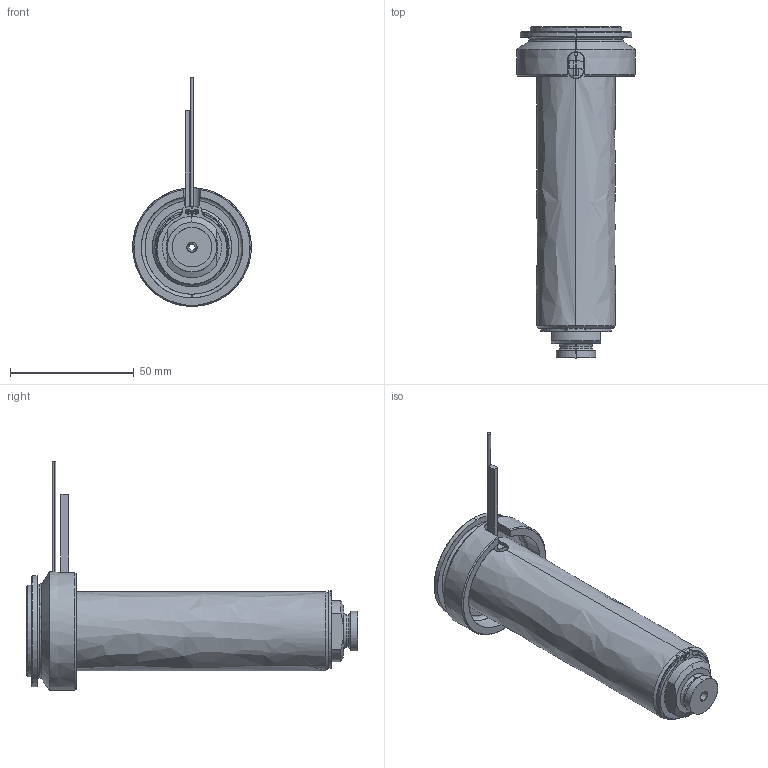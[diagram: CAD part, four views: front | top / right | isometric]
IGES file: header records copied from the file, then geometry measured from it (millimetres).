
Start section: SolidWorks IGES file using analytic representation for surfaces
Global section: file name: C:\Documents and Settings\ws-20\Desktop\TEMPORANEA\UGBE5003-M-A-5 [Ød-2.5 P-0 ØC-12].IGS; native system: SolidWorks 2012; preprocessor: SolidWorks 2012; author: ws-20; date: 120306.145426; units: millimetre
Bounding box: 48 x 134.25 x 92.62 mm (x, y, z)
Surface area: 49406.5 mm2 (no closed solid volume)
Topology: 0 solids, 0 shells, 107 faces, 2022 edges, 2022 vertices
Faces by surface type: revolution 62, bspline 45
